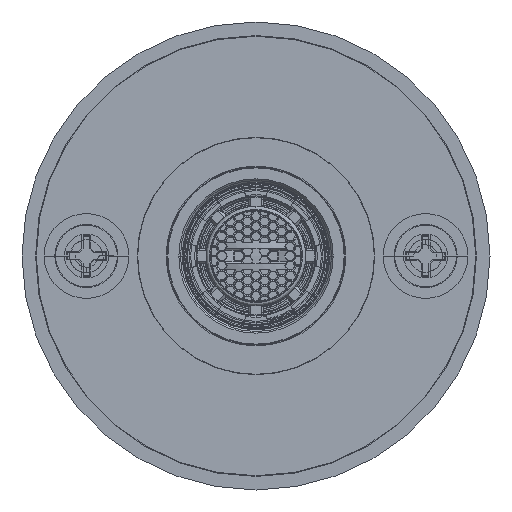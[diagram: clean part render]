
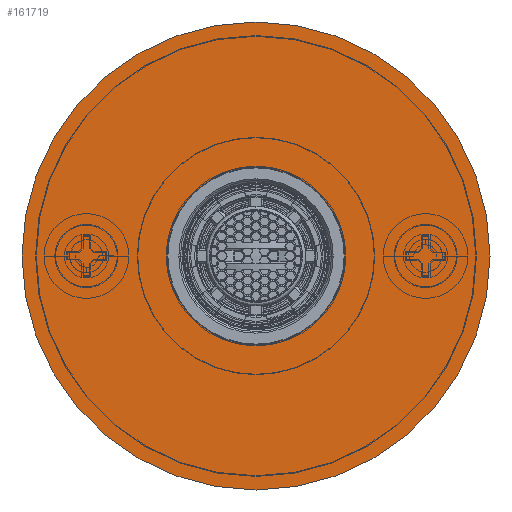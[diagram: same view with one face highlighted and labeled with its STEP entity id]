
A CAD part, front view. The second image highlights one B-rep face of the part: STEP entity #161719.
In plain terms, the highlighted planar face has unit normal (0, -1, 0).
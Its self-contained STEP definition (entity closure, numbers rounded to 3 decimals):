
#161536=CARTESIAN_POINT('',(0.,0.,0.));
#161537=DIRECTION('',(0.,-1.,0.));
#161538=DIRECTION('',(-1.,0.,0.));
#161539=AXIS2_PLACEMENT_3D('',#161536,#161537,#161538);
#161541=CARTESIAN_POINT('',(0.,0.,0.));
#161542=DIRECTION('',(0.,1.,0.));
#161543=DIRECTION('',(-1.,0.,0.));
#161544=AXIS2_PLACEMENT_3D('',#161541,#161542,#161543);
#161546=CARTESIAN_POINT('',(0.,0.,0.));
#161547=DIRECTION('',(0.,-1.,0.));
#161548=DIRECTION('',(-1.,0.,0.));
#161549=AXIS2_PLACEMENT_3D('',#161546,#161547,#161548);
#161551=CARTESIAN_POINT('',(0.,0.,0.));
#161552=DIRECTION('',(0.,-1.,0.));
#161553=DIRECTION('',(1.,0.,0.));
#161554=AXIS2_PLACEMENT_3D('',#161551,#161552,#161553);
#161643=CARTESIAN_POINT('',(-34.5,0.,0.));
#161645=VERTEX_POINT('',#161643);
#161651=CARTESIAN_POINT('',(34.5,0.,0.));
#161653=VERTEX_POINT('',#161651);
#161662=CARTESIAN_POINT('',(-12.,0.,0.));
#161663=CARTESIAN_POINT('',(12.,0.,0.));
#161664=VERTEX_POINT('',#161662);
#161665=VERTEX_POINT('',#161663);
#161704=CARTESIAN_POINT('',(0.,0.,0.));
#161705=DIRECTION('',(0.,1.,0.));
#161706=DIRECTION('',(1.,0.,0.));
#161707=AXIS2_PLACEMENT_3D('',#161704,#161705,#161706);
#161708=PLANE('',#161707);
#161709=ORIENTED_EDGE('',*,*,#161696,.F.);
#161710=ORIENTED_EDGE('',*,*,#161685,.T.);
#161711=EDGE_LOOP('',(#161709,#161710));
#161712=FACE_OUTER_BOUND('',#161711,.F.);
#161714=ORIENTED_EDGE('',*,*,#161713,.T.);
#161716=ORIENTED_EDGE('',*,*,#161715,.T.);
#161717=EDGE_LOOP('',(#161714,#161716));
#161718=FACE_BOUND('',#161717,.F.);
#161719=ADVANCED_FACE('',(#161712,#161718),#161708,.F.);
#161540=CIRCLE('',#161539,34.5);
#161545=CIRCLE('',#161544,34.5);
#161550=CIRCLE('',#161549,12.);
#161555=CIRCLE('',#161554,12.);
#161685=EDGE_CURVE('',#161645,#161653,#161545,.T.);
#161696=EDGE_CURVE('',#161645,#161653,#161540,.T.);
#161713=EDGE_CURVE('',#161664,#161665,#161550,.T.);
#161715=EDGE_CURVE('',#161665,#161664,#161555,.T.);
